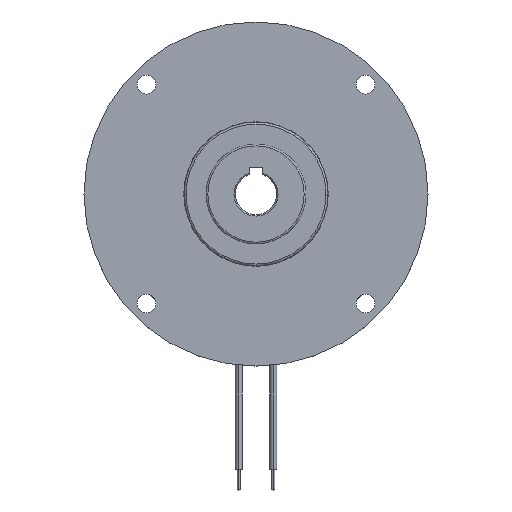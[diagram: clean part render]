
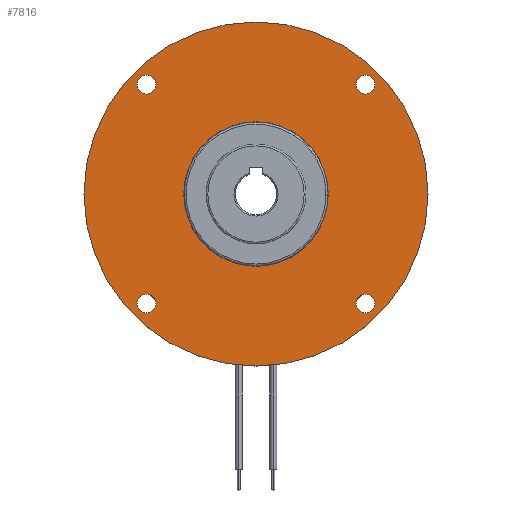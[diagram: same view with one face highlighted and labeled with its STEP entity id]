
A CAD part, top view. The second image highlights one B-rep face of the part: STEP entity #7816.
In plain terms, the highlighted planar face has unit normal (0, 0, 1).
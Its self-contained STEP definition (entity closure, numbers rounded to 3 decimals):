
#57 = DIRECTION ( 'NONE',  ( 0., 0., -1. ) ) ;
#133 = CARTESIAN_POINT ( 'NONE',  ( 29.07, 31.82, 0. ) ) ;
#169 = CARTESIAN_POINT ( 'NONE',  ( 31.82, -31.82, 0. ) ) ;
#312 = AXIS2_PLACEMENT_3D ( 'NONE', #885, #745, #2761 ) ;
#373 = DIRECTION ( 'NONE',  ( -1., 0., 0. ) ) ;
#425 = CARTESIAN_POINT ( 'NONE',  ( 0., 0., 0. ) ) ;
#475 = ORIENTED_EDGE ( 'NONE', *, *, #2237, .T. ) ;
#726 = DIRECTION ( 'NONE',  ( 0., 0., -1. ) ) ;
#745 = DIRECTION ( 'NONE',  ( 0., 0., -1. ) ) ;
#752 = ORIENTED_EDGE ( 'NONE', *, *, #4971, .T. ) ;
#835 = FACE_BOUND ( 'NONE', #3260, .T. ) ;
#840 = CIRCLE ( 'NONE', #312, 2.75 ) ;
#869 = CARTESIAN_POINT ( 'NONE',  ( 50., 0., 0. ) ) ;
#878 = CARTESIAN_POINT ( 'NONE',  ( 0., 50., 0. ) ) ;
#885 = CARTESIAN_POINT ( 'NONE',  ( -31.82, -31.82, 0. ) ) ;
#1099 = DIRECTION ( 'NONE',  ( -1., 0., 0. ) ) ;
#1428 = CARTESIAN_POINT ( 'NONE',  ( 31.82, 31.82, 0. ) ) ;
#1434 = FACE_BOUND ( 'NONE', #7516, .T. ) ;
#1443 = ORIENTED_EDGE ( 'NONE', *, *, #2354, .T. ) ;
#1461 = AXIS2_PLACEMENT_3D ( 'NONE', #5584, #6934, #1099 ) ;
#1501 = DIRECTION ( 'NONE',  ( -1., 0., 0. ) ) ;
#1552 = CARTESIAN_POINT ( 'NONE',  ( 21., 0., 0. ) ) ;
#1670 = AXIS2_PLACEMENT_3D ( 'NONE', #5472, #4194, #2417 ) ;
#1685 = DIRECTION ( 'NONE',  ( 0., 0., -1. ) ) ;
#1697 = CARTESIAN_POINT ( 'NONE',  ( -34.57, 31.82, 0. ) ) ;
#1887 = EDGE_LOOP ( 'NONE', ( #3183, #6671 ) ) ;
#1922 = AXIS2_PLACEMENT_3D ( 'NONE', #169, #4564, #1501 ) ;
#2187 = AXIS2_PLACEMENT_3D ( 'NONE', #4472, #3764, #2493 ) ;
#2237 = EDGE_CURVE ( 'NONE', #6249, #3122, #7421, .T. ) ;
#2243 = CIRCLE ( 'NONE', #5942, 21. ) ;
#2250 = EDGE_CURVE ( 'NONE', #6737, #2905, #7287, .T. ) ;
#2282 = AXIS2_PLACEMENT_3D ( 'NONE', #5438, #2943, #3032 ) ;
#2314 = CIRCLE ( 'NONE', #2187, 50. ) ;
#2337 = CIRCLE ( 'NONE', #1670, 2.75 ) ;
#2354 = EDGE_CURVE ( 'NONE', #4475, #5002, #2549, .T. ) ;
#2417 = DIRECTION ( 'NONE',  ( -1., 0., 0. ) ) ;
#2420 = AXIS2_PLACEMENT_3D ( 'NONE', #425, #5397, #3528 ) ;
#2493 = DIRECTION ( 'NONE',  ( -1., 0., 0. ) ) ;
#2549 = CIRCLE ( 'NONE', #5728, 2.75 ) ;
#2698 = EDGE_CURVE ( 'NONE', #4866, #8088, #2314, .T. ) ;
#2761 = DIRECTION ( 'NONE',  ( -1., 0., 0. ) ) ;
#2841 = EDGE_CURVE ( 'NONE', #4255, #7917, #840, .T. ) ;
#2905 = VERTEX_POINT ( 'NONE', #1697 ) ;
#2943 = DIRECTION ( 'NONE',  ( 0., 0., -1. ) ) ;
#3032 = DIRECTION ( 'NONE',  ( -1., 0., 0. ) ) ;
#3058 = EDGE_CURVE ( 'NONE', #5002, #4475, #3770, .T. ) ;
#3122 = VERTEX_POINT ( 'NONE', #1552 ) ;
#3129 = VERTEX_POINT ( 'NONE', #5311 ) ;
#3183 = ORIENTED_EDGE ( 'NONE', *, *, #2698, .F. ) ;
#3214 = CARTESIAN_POINT ( 'NONE',  ( 0., 0., 0. ) ) ;
#3245 = ORIENTED_EDGE ( 'NONE', *, *, #7992, .T. ) ;
#3260 = EDGE_LOOP ( 'NONE', ( #1443, #5367 ) ) ;
#3366 = DIRECTION ( 'NONE',  ( -1., 0., 0. ) ) ;
#3371 = FACE_OUTER_BOUND ( 'NONE', #1887, .T. ) ;
#3528 = DIRECTION ( 'NONE',  ( -1., 0., 0. ) ) ;
#3552 = EDGE_CURVE ( 'NONE', #3122, #6249, #2243, .T. ) ;
#3620 = DIRECTION ( 'NONE',  ( -1., 0., 0. ) ) ;
#3757 = ORIENTED_EDGE ( 'NONE', *, *, #6681, .T. ) ;
#3764 = DIRECTION ( 'NONE',  ( 0., 0., -1. ) ) ;
#3766 = CIRCLE ( 'NONE', #1922, 2.75 ) ;
#3770 = CIRCLE ( 'NONE', #4684, 2.75 ) ;
#3783 = CARTESIAN_POINT ( 'NONE',  ( -29.07, -31.82, 0. ) ) ;
#3879 = FACE_BOUND ( 'NONE', #7191, .T. ) ;
#3944 = VERTEX_POINT ( 'NONE', #7105 ) ;
#4016 = AXIS2_PLACEMENT_3D ( 'NONE', #3214, #726, #3366 ) ;
#4194 = DIRECTION ( 'NONE',  ( 0., 0., -1. ) ) ;
#4255 = VERTEX_POINT ( 'NONE', #5314 ) ;
#4472 = CARTESIAN_POINT ( 'NONE',  ( 0., 0., 0. ) ) ;
#4475 = VERTEX_POINT ( 'NONE', #133 ) ;
#4478 = DIRECTION ( 'NONE',  ( 0., 0., -1. ) ) ;
#4545 = CIRCLE ( 'NONE', #4016, 50. ) ;
#4564 = DIRECTION ( 'NONE',  ( 0., 0., -1. ) ) ;
#4610 = EDGE_CURVE ( 'NONE', #3129, #3944, #3766, .T. ) ;
#4684 = AXIS2_PLACEMENT_3D ( 'NONE', #1428, #57, #7661 ) ;
#4759 = CARTESIAN_POINT ( 'NONE',  ( 0., 0., 0. ) ) ;
#4866 = VERTEX_POINT ( 'NONE', #5809 ) ;
#4971 = EDGE_CURVE ( 'NONE', #7917, #4255, #2337, .T. ) ;
#4990 = CARTESIAN_POINT ( 'NONE',  ( 31.82, -31.82, 0. ) ) ;
#5002 = VERTEX_POINT ( 'NONE', #7919 ) ;
#5240 = EDGE_LOOP ( 'NONE', ( #7936, #752 ) ) ;
#5311 = CARTESIAN_POINT ( 'NONE',  ( 29.07, -31.82, 0. ) ) ;
#5314 = CARTESIAN_POINT ( 'NONE',  ( -34.57, -31.82, 0. ) ) ;
#5367 = ORIENTED_EDGE ( 'NONE', *, *, #3058, .T. ) ;
#5397 = DIRECTION ( 'NONE',  ( 0., 0., -1. ) ) ;
#5424 = ORIENTED_EDGE ( 'NONE', *, *, #2250, .T. ) ;
#5438 = CARTESIAN_POINT ( 'NONE',  ( -31.82, 31.82, 0. ) ) ;
#5472 = CARTESIAN_POINT ( 'NONE',  ( -31.82, -31.82, 0. ) ) ;
#5485 = DIRECTION ( 'NONE',  ( -1., 0., 0. ) ) ;
#5584 = CARTESIAN_POINT ( 'NONE',  ( -31.82, 31.82, 0. ) ) ;
#5697 = ORIENTED_EDGE ( 'NONE', *, *, #3552, .T. ) ;
#5728 = AXIS2_PLACEMENT_3D ( 'NONE', #7883, #4478, #7529 ) ;
#5809 = CARTESIAN_POINT ( 'NONE',  ( -50., 0., 0. ) ) ;
#5910 = PLANE ( 'NONE',  #6027 ) ;
#5932 = EDGE_CURVE ( 'NONE', #8088, #4866, #4545, .T. ) ;
#5942 = AXIS2_PLACEMENT_3D ( 'NONE', #4759, #7835, #373 ) ;
#6027 = AXIS2_PLACEMENT_3D ( 'NONE', #878, #1685, #5485 ) ;
#6249 = VERTEX_POINT ( 'NONE', #7078 ) ;
#6482 = FACE_BOUND ( 'NONE', #5240, .T. ) ;
#6671 = ORIENTED_EDGE ( 'NONE', *, *, #5932, .F. ) ;
#6679 = AXIS2_PLACEMENT_3D ( 'NONE', #4990, #7538, #3620 ) ;
#6681 = EDGE_CURVE ( 'NONE', #2905, #6737, #6882, .T. ) ;
#6737 = VERTEX_POINT ( 'NONE', #7385 ) ;
#6740 = EDGE_LOOP ( 'NONE', ( #7365, #3245 ) ) ;
#6882 = CIRCLE ( 'NONE', #1461, 2.75 ) ;
#6934 = DIRECTION ( 'NONE',  ( 0., 0., -1. ) ) ;
#7023 = FACE_BOUND ( 'NONE', #6740, .T. ) ;
#7078 = CARTESIAN_POINT ( 'NONE',  ( -21., 0., 0. ) ) ;
#7079 = CIRCLE ( 'NONE', #6679, 2.75 ) ;
#7105 = CARTESIAN_POINT ( 'NONE',  ( 34.57, -31.82, 0. ) ) ;
#7191 = EDGE_LOOP ( 'NONE', ( #3757, #5424 ) ) ;
#7287 = CIRCLE ( 'NONE', #2282, 2.75 ) ;
#7365 = ORIENTED_EDGE ( 'NONE', *, *, #4610, .T. ) ;
#7385 = CARTESIAN_POINT ( 'NONE',  ( -29.07, 31.82, 0. ) ) ;
#7421 = CIRCLE ( 'NONE', #2420, 21. ) ;
#7516 = EDGE_LOOP ( 'NONE', ( #475, #5697 ) ) ;
#7529 = DIRECTION ( 'NONE',  ( -1., 0., 0. ) ) ;
#7538 = DIRECTION ( 'NONE',  ( 0., 0., -1. ) ) ;
#7661 = DIRECTION ( 'NONE',  ( -1., 0., 0. ) ) ;
#7816 = ADVANCED_FACE ( 'NONE', ( #835, #7023, #6482, #3879, #3371, #1434 ), #5910, .F. ) ;
#7835 = DIRECTION ( 'NONE',  ( 0., 0., -1. ) ) ;
#7883 = CARTESIAN_POINT ( 'NONE',  ( 31.82, 31.82, 0. ) ) ;
#7917 = VERTEX_POINT ( 'NONE', #3783 ) ;
#7919 = CARTESIAN_POINT ( 'NONE',  ( 34.57, 31.82, 0. ) ) ;
#7936 = ORIENTED_EDGE ( 'NONE', *, *, #2841, .T. ) ;
#7992 = EDGE_CURVE ( 'NONE', #3944, #3129, #7079, .T. ) ;
#8088 = VERTEX_POINT ( 'NONE', #869 ) ;
